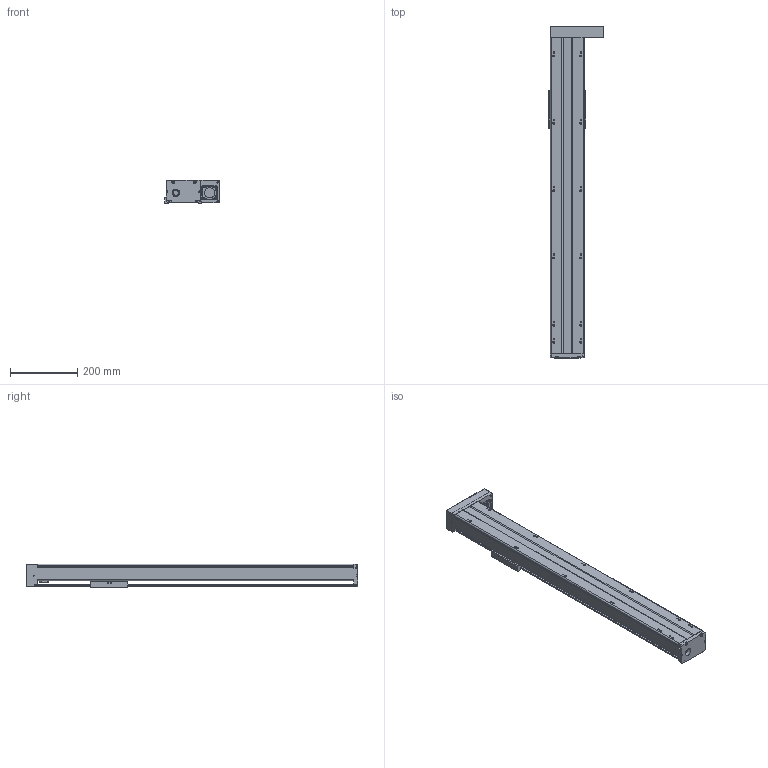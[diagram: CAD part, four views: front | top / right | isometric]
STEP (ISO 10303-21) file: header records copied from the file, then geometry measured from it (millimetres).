
FILE_DESCRIPTION(/* description */ (''),/* implementation_level */ '2;1');
FILE_NAME(/* name */ 'TKA100-FR-750_asm1.stp',/* time_stamp */ '2016-05-17T15:45:24+08:00',/* author */ (''),/* organization */ (''),/* preprocessor_version */ 'ST-DEVELOPER v15',/* originating_system */ 'SIEMENS PLM Software NX 8.5',/* authorisation */ '');
FILE_SCHEMA (('AUTOMOTIVE_DESIGN { 1 0 10303 214 3 1 1 1 }'));
Length unit declared in the file: millimetre
Products named in the file (3): 200-2; 200-1; TKA100-FR-750_asm1
Assembly tree (2 placements, depth 2):
  TKA100-FR-750_asm1
    200-1
    200-2
Bounding box: 162 x 986 x 71 mm (x, y, z)
Volume: 2097260.5 mm3; surface area: 715872.8 mm2
Topology: 2 solids, 16 shells, 808 faces, 2105 edges, 1374 vertices
Faces by surface type: plane 324, cylinder 307, cone 123, torus 28, bspline 26
Full cylindrical faces by diameter (mm): 2.5 x6, 2.6 x8, 3.3 x11, 3.4 x4, 3.8 x8, 4.2 x21, 4.3 x4, 4.5 x6, 5 x2, 5.5 x20, 6.6 x4, 8 x4, 9 x6, 10 x13, 11 x4, 12 x6, 15.3 x1, 16 x1, 22 x1, 24 x1, 28 x2, 30 x1, 33 x1
Entity records: 29352 total; most frequent: CARTESIAN_POINT 10670, DIRECTION 3833, ORIENTED_EDGE 3616, EDGE_CURVE 1808, AXIS2_PLACEMENT_3D 1517, VERTEX_POINT 1286, EDGE_LOOP 1119, ADVANCED_FACE 808
